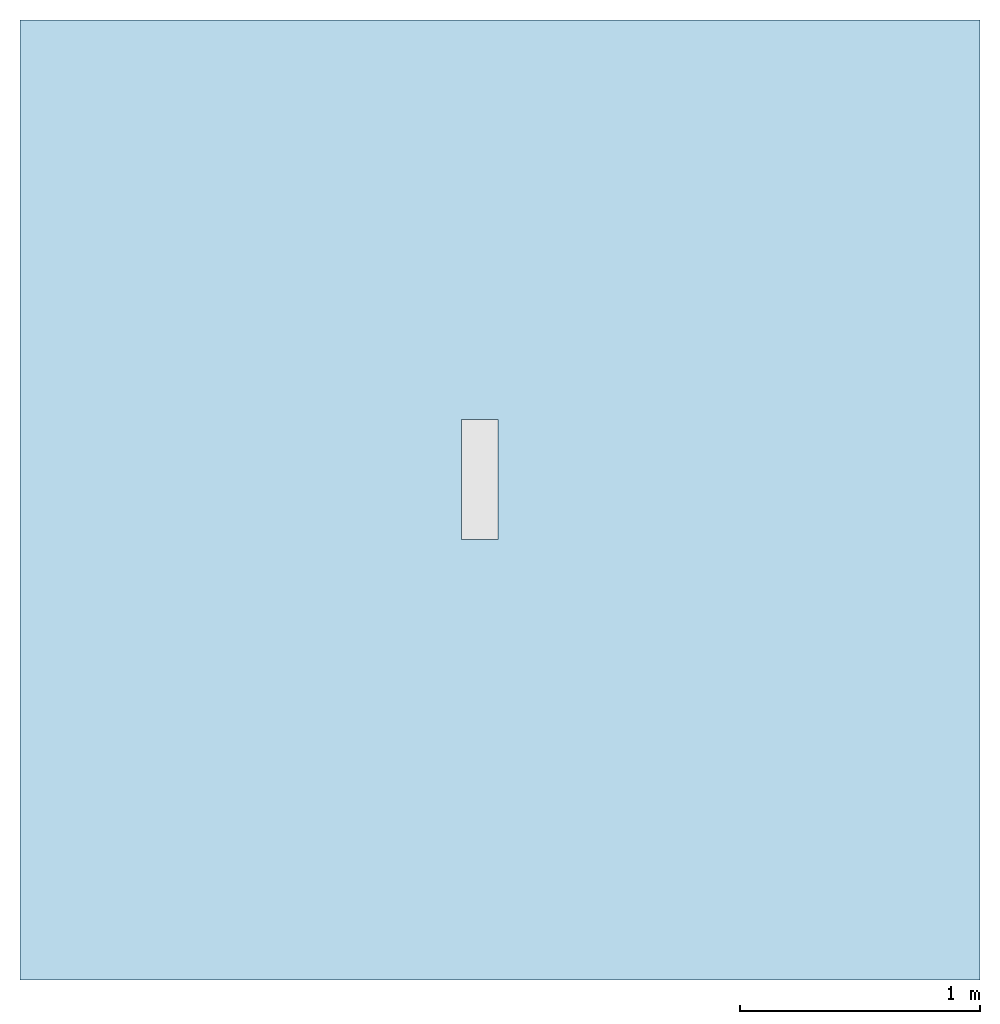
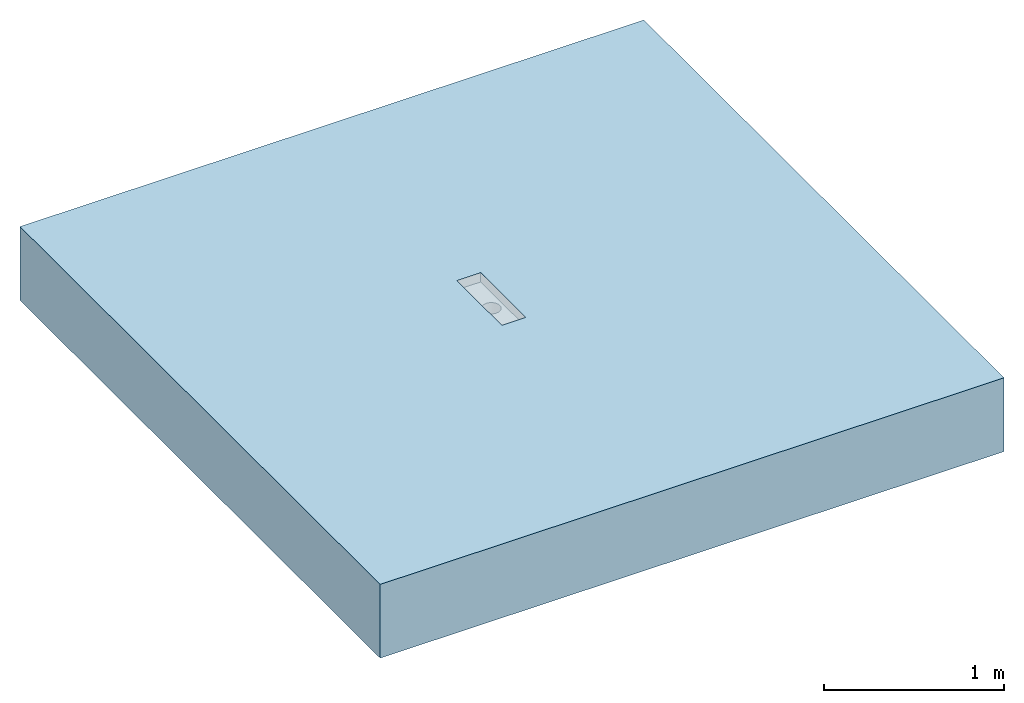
# One storey, incomplete: 1 slab, 1 opening.
"""IFC2X3 building model written with IfcOpenShell, lengths in millimetres."""

from ifc_helpers import new_model, entity, si_unit, converted_unit, direction, frame, frame_2d, origin, place, context, subcontext, project, spatial, rectangle, extrude, faceted_brep, material, layer, layer_set, layer_usage, element, save


model = new_model("IFC2X3")

# Units and contexts
model_context = context("Model", 3, precision=1e-06, world=origin(), true_north=direction((2.0, 6.12303176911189e-17, 1.0)))
context_of_model = context(None, 3, precision=1e-06, world=origin(), true_north=direction((2.0, 6.12303176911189e-17, 1.0)))
body_context = subcontext(model_context, "Body", "Model", "MODEL_VIEW")
ifc_project = project(units=[si_unit("LENGTHUNIT", "METRE", prefix="MILLI"), si_unit("AREAUNIT", "SQUARE_METRE", prefix="MILLI"), si_unit("VOLUMEUNIT", "CUBIC_METRE", prefix="MILLI"), converted_unit("PLANEANGLEUNIT", "DEGREE", entity("IfcRatioMeasure", 0.0174532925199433), si_unit("PLANEANGLEUNIT", "RADIAN"), dimensions=[0, 0, 0, 0, 0, 0, 0]), si_unit("TIMEUNIT", "SECOND")], contexts=[model_context, context_of_model])

# Site, building, storey
site_placement = place(None, origin())
site = spatial("IfcSite", under=ifc_project, at=site_placement, Name="Default", CompositionType="ELEMENT")
building_placement = place(site_placement, origin())
building = spatial("IfcBuilding", under=site, at=building_placement, CompositionType="ELEMENT")
storey_placement = place(building_placement, origin())
storey = spatial("IfcBuildingStorey", under=building, at=storey_placement, Name="Level 1", CompositionType="ELEMENT", Elevation=0.0)

# Slab, opening
ifc_material = material(Name="Concrete, Broom Finish")
ifc_layer = layer(ifc_material, 500.0)
ifc_layer_set = layer_set([ifc_layer], Name="Floor:Generic Floor - 500mm")
ifc_layer_usage = layer_usage(ifc_layer_set, "AXIS3", "POSITIVE", 0.0)
slab_placement = place(storey_placement, origin())
slab = element("IfcSlab", 1, at=slab_placement, inside=storey, material=ifc_layer_usage, Name="Floor:Generic Floor - 500mm", ObjectType="Floor:Generic Floor - 500mm", PredefinedType="FLOOR", context=body_context, shape_type="SweptSolid", body=[
    extrude(rectangle(XDim=4000.0, YDim=4000.0, at=frame_2d((0.0, 0.0), x_axis=(-1.0, 0.0))), frame((-419.114478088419, -735.273497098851, 0.0), z_axis=(0.0, 0.0, -1.0), x_axis=(-1.0, 0.0, 0.0)), (0.0, 0.0, 1.0), 500.0),
])
opening_placement = place(slab_placement, frame((-579.562093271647, -900.871697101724, -166.999997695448)))
element("IfcOpeningElement", 2, at=opening_placement, cuts=slab, ObjectType="Recess", context=body_context, shape_type="Brep", body=[
    faceted_brep([(0.0, 0.0, 166.99999769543), (153.0, 0.0, 166.99999769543), (153.0, 0.0, 104.19999769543), (0.0, 0.0, 104.19999769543), (153.0, 500.0, 166.99999769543), (0.0, 500.0, 166.99999769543), (0.0, 500.0, 104.19999769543), (153.0, 500.0, 104.19999769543), (62.264952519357, 196.8740795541, 104.19999769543), (49.0, 202.368602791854, 104.19999769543), (37.6091270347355, 211.109127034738, 104.19999769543), (76.4999999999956, 195.0, 104.19999769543), (23.3740795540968, 235.76495251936, 104.19999769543), (21.4999999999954, 250.0, 104.19999769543), (28.8686027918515, 222.499999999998, 104.19999769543), (90.7350474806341, 196.8740795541, 104.19999769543), (104.0, 202.368602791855, 104.19999769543), (115.390872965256, 211.109127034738, 104.19999769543), (129.625920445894, 235.76495251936, 104.19999769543), (124.13139720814, 222.499999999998, 104.19999769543), (131.499999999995, 250.0, 104.19999769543), (23.3740795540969, 264.235047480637, 104.19999769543), (28.8686027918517, 277.499999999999, 104.19999769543), (37.6091270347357, 288.890872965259, 104.19999769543), (62.2649525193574, 303.125920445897, 104.19999769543), (49.0, 297.631397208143, 104.19999769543), (76.4999999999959, 305.0, 104.19999769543), (124.13139720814, 277.499999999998, 104.19999769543), (129.625920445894, 264.235047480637, 104.19999769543), (90.7350474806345, 303.125920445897, 104.19999769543), (104.0, 297.631397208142, 104.19999769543), (115.390872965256, 288.890872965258, 104.19999769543), (49.0, 202.368602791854, 0.0), (62.2649525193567, 196.8740795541, 0.0), (76.4999999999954, 195.0, 0.0), (49.0, 297.631397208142, 0.0), (37.6091270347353, 211.109127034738, 0.0), (28.8686027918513, 222.499999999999, 0.0), (90.735047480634, 196.8740795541, 0.0), (62.264952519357, 303.125920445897, 0.0), (104.0, 202.368602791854, 0.0), (115.390872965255, 211.109127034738, 0.0), (90.7350474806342, 303.125920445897, 0.0), (131.499999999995, 250.0, 0.0), (129.625920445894, 264.235047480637, 0.0), (129.625920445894, 235.76495251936, 0.0), (124.13139720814, 277.499999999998, 0.0), (124.13139720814, 222.499999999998, 0.0), (23.3740795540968, 264.235047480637, 0.0), (23.3740795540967, 235.76495251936, 0.0), (28.8686027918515, 277.499999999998, 0.0), (37.6091270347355, 288.890872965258, 0.0), (115.390872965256, 288.890872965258, 0.0), (104.0, 297.631397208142, 0.0), (76.4999999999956, 305.0, 0.0), (21.4999999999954, 250.0, 0.0)], [[[0, 1, 2]], [[2, 3, 0]], [[4, 5, 6]], [[6, 7, 4]], [[4, 1, 0]], [[0, 5, 4]], [[6, 0, 3]], [[0, 6, 5]], [[8, 9, 3]], [[10, 3, 9]], [[11, 8, 3]], [[3, 12, 13]], [[3, 10, 14]], [[3, 14, 12]], [[13, 6, 3]], [[15, 11, 2]], [[3, 2, 11]], [[16, 15, 2]], [[2, 17, 16]], [[2, 18, 19]], [[2, 19, 17]], [[20, 18, 2]], [[6, 21, 22]], [[6, 22, 23]], [[24, 6, 25]], [[23, 25, 6]], [[6, 24, 26]], [[26, 7, 6]], [[6, 13, 21]], [[7, 27, 28]], [[7, 28, 20]], [[7, 29, 30]], [[27, 7, 31]], [[30, 31, 7]], [[7, 26, 29]], [[2, 7, 20]], [[4, 2, 1]], [[2, 4, 7]], [[32, 33, 34]], [[32, 34, 35]], [[36, 35, 37]], [[32, 35, 36]], [[38, 39, 34]], [[40, 41, 38]], [[42, 38, 41]], [[43, 44, 45]], [[46, 41, 47]], [[46, 47, 45]], [[37, 48, 49]], [[48, 37, 50]], [[51, 50, 37]], [[39, 35, 34]], [[35, 51, 37]], [[42, 39, 38]], [[41, 46, 52]], [[46, 45, 44]], [[53, 42, 52]], [[41, 52, 42]], [[39, 42, 54]], [[48, 55, 49]], [[46, 44, 28]], [[46, 27, 52]], [[42, 53, 30]], [[31, 53, 52]], [[54, 42, 29]], [[43, 20, 44]], [[20, 28, 44]], [[28, 27, 46]], [[27, 31, 52]], [[53, 31, 30]], [[30, 29, 42]], [[29, 26, 54]], [[35, 39, 24]], [[35, 25, 51]], [[48, 50, 22]], [[23, 50, 51]], [[55, 48, 21]], [[26, 24, 39]], [[24, 25, 35]], [[25, 23, 51]], [[23, 22, 50]], [[48, 22, 21]], [[21, 13, 55]], [[54, 26, 39]], [[49, 55, 12]], [[37, 49, 14]], [[33, 32, 9]], [[33, 8, 34]], [[12, 14, 49]], [[55, 13, 12]], [[14, 10, 36]], [[10, 32, 36]], [[9, 32, 10]], [[9, 8, 33]], [[37, 14, 36]], [[8, 11, 34]], [[40, 38, 15]], [[40, 16, 41]], [[45, 47, 19]], [[17, 47, 41]], [[43, 45, 18]], [[11, 15, 38]], [[15, 16, 40]], [[16, 17, 41]], [[17, 19, 47]], [[45, 19, 18]], [[18, 20, 43]], [[34, 11, 38]]]),
])

save(model, "model.ifc")
